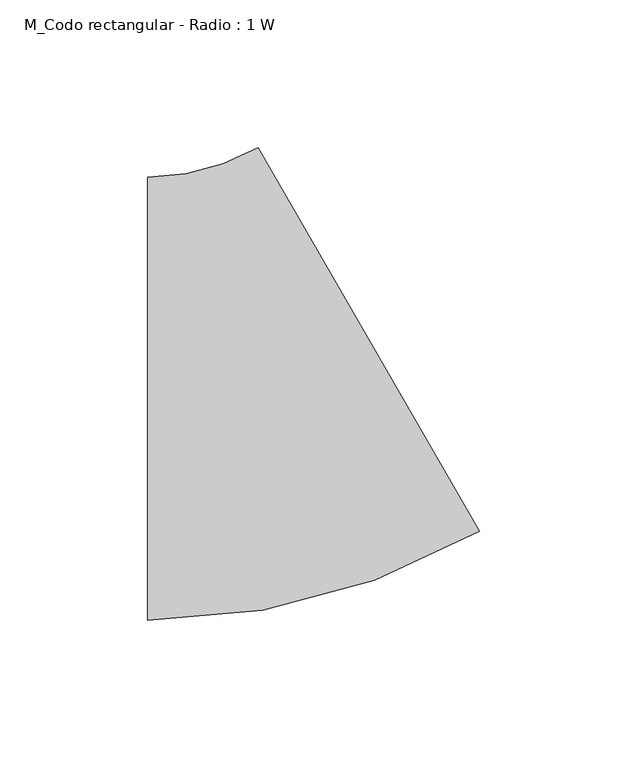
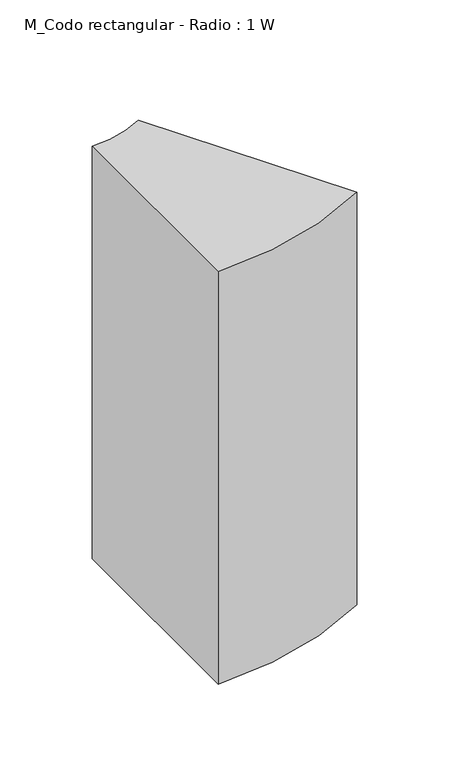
"""IFC4 building model written with IfcOpenShell, lengths in millimetres: duct fitting geometry, M_Codo rectangular - Radio : 1 W."""

from ifc_helpers import new_model, si_unit, point, frame, frame_2d, origin, place, context, project, spatial, polyline, circle_curve, trimmed, segment, composite_curve, outline, extrude, source, transform, mapped, element, save


def m_codo_rectangular_radio_1_w_94051082(model_context):
    return source(origin(), model_context, "Body", "SweptSolid", [
        extrude(outline(composite_curve([segment(trimmed(circle_curve(frame_2d((-40.1923789, 150.0)), 225.0), [point((72.3076211, -44.8557159))], [point((-40.1923789, -75.0))], False, "CARTESIAN"), True, "CONTINUOUS"), segment(polyline([(-40.1923789, -75.0), (-40.1923789, 75.0)]), True, "CONTINUOUS"), segment(trimmed(circle_curve(frame_2d((-40.1923789, 150.0)), 75.0), [point((-40.1923789, 75.0))], [point((-2.6923789, 85.0480947))], True, "CARTESIAN"), True, "CONTINUOUS"), segment(polyline([(-2.6923789, 85.0480947), (72.3076211, -44.8557159)]), True, "CONTINUOUS")], self_intersect=False)), frame((0.0, 0.0, -150.0), z_axis=(0.0, 0.0, 1.0), x_axis=(1.0, 0.0, 0.0)), (0.0, 0.0, 1.0), 300.0),
    ])


if __name__ == "__main__":
    model = new_model("IFC4")
    model_context = context("Model", 3, world=origin())
    ifc_project = project(units=[si_unit("LENGTHUNIT", "METRE", prefix="MILLI")], contexts=[model_context])
    site = spatial("IfcSite", under=ifc_project)
    building = spatial("IfcBuilding", under=site)
    placement = place(None, origin())
    m_codo_rectangular_radio_1_w_shape = m_codo_rectangular_radio_1_w_94051082(model_context)
    element("IfcDuctFitting", 1, ObjectType="M_Codo rectangular - Radio : 1 W", at=placement, inside=building, context=model_context, shape_type="MappedRepresentation", body=[
        mapped(m_codo_rectangular_radio_1_w_shape, transform((0.0, 0.0, 0.0), x_axis=(1.0, 0.0, 0.0), y_axis=(0.0, 1.0, 0.0), z_axis=(0.0, 0.0, 1.0))),
    ])
    save(model, "model.ifc")
